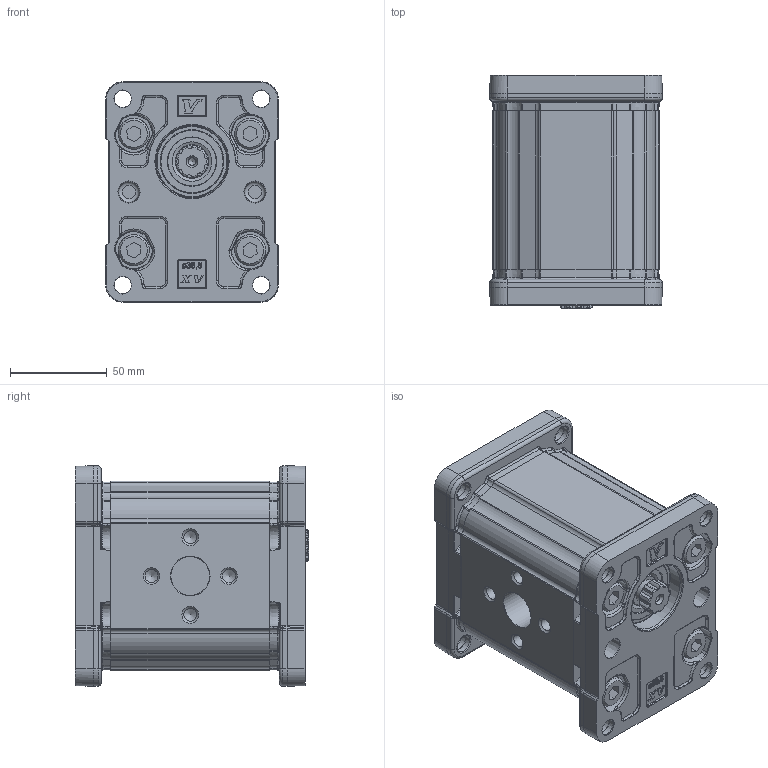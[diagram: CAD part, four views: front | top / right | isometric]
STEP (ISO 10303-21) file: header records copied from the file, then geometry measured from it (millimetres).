
FILE_DESCRIPTION(/* description */ ('Unknown'),/* implementation_level */ '2;1');
FILE_NAME(/* name */ 'X2I5701PQPA',/* time_stamp */ '2026-06-03T18:52:43+02:00',/* author */ ('Unknown'),/* organization */ ('Unknown'),/* preprocessor_version */ 'ST-DEVELOPER v16.7',/* originating_system */ 'Solid Edge',/* authorisation */ 'Unknown');
FILE_SCHEMA (('AUTOMOTIVE_DESIGN {1 0 10303 214 3 1 1}'));
Products named in the file (5): X2I5701PQPA; X2I01; 2P; X2QPH82; XI201-A
Assembly tree (4 placements, depth 2):
  X2I5701PQPA
    X2I01
    2P
    X2QPH82
    XI201-A
Bounding box: 89 x 120.2 x 113.7 mm (x, y, z)
Volume: 863777.7 mm3; surface area: 134396.6 mm2
Topology: 5 solids, 6 shells, 2226 faces, 6524 edges, 3960 vertices
Faces by surface type: cylinder 684, plane 598, bspline 338, torus 328, cone 258, sphere 20
Full cylindrical faces by diameter (mm): 4 x1, 6.647 x8, 8.796 x8, 8.798 x8, 9.99 x4, 10 x8, 10.5 x16, 11.5 x4, 12.5 x2, 15.8 x4, 16 x4, 17.42 x2, 20 x1, 23 x1, 23.5 x1, 25 x2, 32.5 x2, 36.5 x2
Entity records: 94807 total; most frequent: CARTESIAN_POINT 24279, ORIENTED_EDGE 12052, DIRECTION 11094, EDGE_CURVE 6026, AXIS2_PLACEMENT_3D 4523, VERTEX_POINT 3810, FACE_BOUND 2668, EDGE_LOOP 2657
